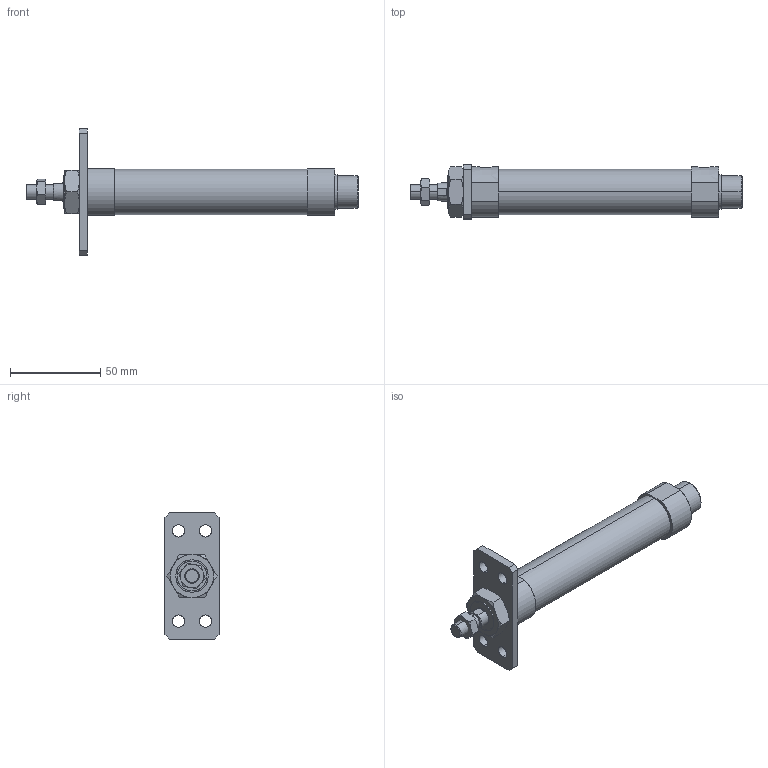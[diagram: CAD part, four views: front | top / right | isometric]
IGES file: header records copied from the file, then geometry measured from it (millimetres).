
Start section: SolidWorks IGES file using analytic representation for surfaces
Global section: file name: C:\Users\Toshiba\Desktop\J#2-20-75-A.IGS; native system: SolidWorks 2014; preprocessor: SolidWorks 2014; author: Toshiba; date: 160308.145841; units: millimetre
Bounding box: 184 x 30 x 70 mm (x, y, z)
Surface area: 22176.5 mm2 (no closed solid volume)
Topology: 0 solids, 0 shells, 112 faces, 2028 edges, 2028 vertices
Faces by surface type: bspline 70, revolution 42
